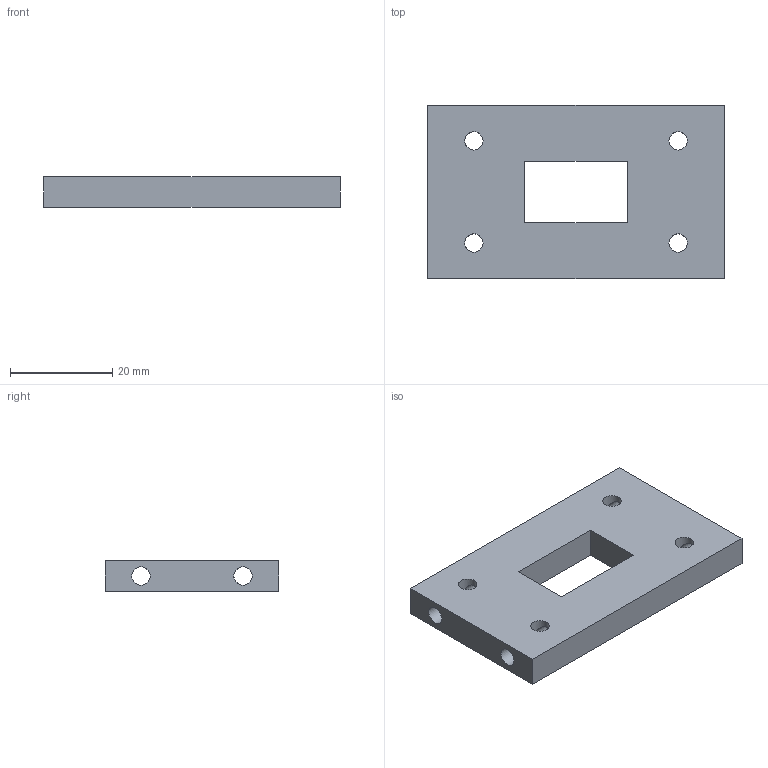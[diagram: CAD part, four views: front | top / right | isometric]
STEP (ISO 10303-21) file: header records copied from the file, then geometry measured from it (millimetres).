
FILE_DESCRIPTION(('Open CASCADE Model'),'2;1');
FILE_NAME('Open CASCADE Shape Model','2026-10-06T17:17:59',('Author'),( 'Open CASCADE'),'Open CASCADE STEP processor 7.8','Open CASCADE 7.8' ,'Unknown');
FILE_SCHEMA(('AUTOMOTIVE_DESIGN { 1 0 10303 214 1 1 1 1 }'));
Length unit declared in the file: millimetre
Products named in the file (1): Open CASCADE STEP translator 7.8 9
Bounding box: 58 x 34 x 6 mm (x, y, z)
Volume: 9091.4 mm3; surface area: 6205.9 mm2
Topology: 1 solids, 1 shells, 24 faces, 78 edges, 48 vertices
Faces by surface type: cylinder 14, plane 10
Full cylindrical faces by diameter (mm): 3.6 x14
Entity records: 2310 total; most frequent: CARTESIAN_POINT 827, DIRECTION 252, ORIENTED_EDGE 156, PCURVE 156, DEFINITIONAL_REPRESENTATION 156, LINE 110, VECTOR 110, EDGE_CURVE 78
